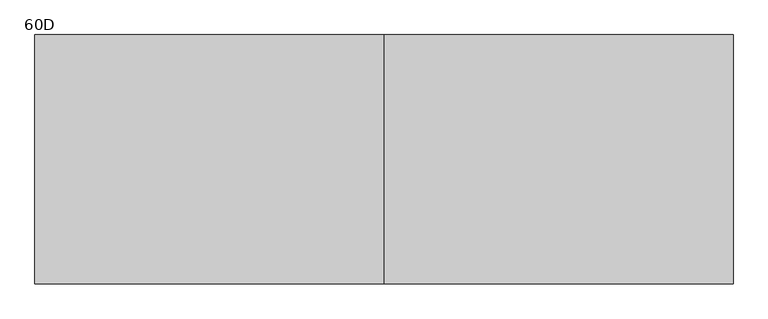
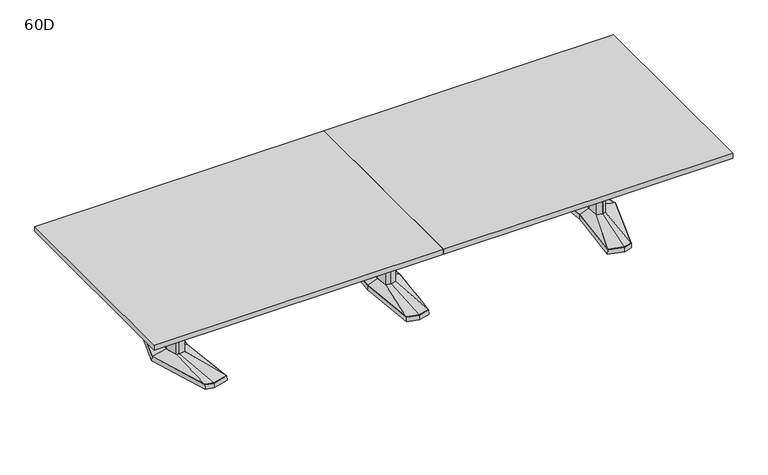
"""IFC4 building model written with IfcOpenShell, lengths in millimetres: furniture geometry, Coalesse_AM_Table_Conference_ETable2_Rectangular_14ft_AluminiumBase : 60D."""

from ifc_helpers import new_model, si_unit, frame, origin, place, context, project, spatial, polyline, outline, extrude, faceted_brep, source, transform, mapped, element, save
from ifc_brep_helpers import plane_surface, spline_surface, advanced_brep


def furniture_60d_765ecf6f(model_context):
    return source(origin(), model_context, "Body", "SolidModel", [
        faceted_brep([(-81.2333791, -433.8053819, 38.1), (0.0, -455.556576, 38.1), (81.2333791, -433.8053819, 38.1), (119.0564774, 0.0, 38.1), (81.2333791, 433.8053819, 38.1), (0.0, 455.556576, 38.1), (-81.2333791, 433.8053819, 38.1), (-119.0564774, 0.0, 38.1), (-82.7182795, -435.0512063, 3.175), (-120.65, 0.0, 3.175), (-82.7182795, 435.0512063, 3.175), (0.0, 457.2, 3.175), (82.7182795, 435.0512063, 3.175), (120.65, 0.0, 3.175), (82.7182795, -435.0512063, 3.175), (0.0, -457.2, 3.175), (0.0, 429.2617927, 3.175), (-77.9676806, 408.3850278, 3.175), (-74.7019821, 382.9646737, 3.175), (0.0, 402.9670094, 3.175), (74.7019821, 382.9646737, 3.175), (77.9676806, 408.3850278, 3.175), (0.0, -429.2617927, 3.175), (77.9676806, -408.3850278, 3.175), (74.7019821, -382.9646737, 3.175), (0.0, -402.9670094, 3.175), (-74.7019821, -382.9646737, 3.175), (-77.9676806, -408.3850278, 3.175), (-71.8574262, 114.6326257, 3.175), (-82.5426076, 0.0, 3.175), (-71.8574262, -114.6326257, 3.175), (0.0, -133.8761372, 3.175), (71.8574262, -114.6326257, 3.175), (82.5426076, 0.0, 3.175), (71.8574262, 114.6326257, 3.175), (0.0, 133.8761372, 3.175), (0.0, 429.2617927, 0.0), (77.9676806, 408.3850278, 0.0), (74.7019821, 382.9646737, 0.0), (0.0, 402.9670094, 0.0), (-74.7019821, 382.9646737, 0.0), (-77.9676806, 408.3850278, 0.0), (0.0, -429.2617927, 0.0), (-77.9676806, -408.3850278, 0.0), (-74.7019821, -382.9646737, 0.0), (0.0, -402.9670094, 0.0), (74.7019821, -382.9646737, 0.0), (77.9676806, -408.3850278, 0.0), (-71.8574262, 114.6326257, 0.0), (0.0, 133.8761372, 0.0), (71.8574262, 114.6326257, 0.0), (82.5426076, 0.0, 0.0), (71.8574262, -114.6326257, 0.0), (0.0, -133.8761372, 0.0), (-71.8574262, -114.6326257, 0.0), (-82.5426076, 0.0, 0.0)], [[[0, 1, 2, 3, 4, 5, 6, 7]], [[8, 9, 10, 11, 12, 13, 14, 15], [16, 17, 18, 19, 20, 21], [22, 23, 24, 25, 26, 27], [28, 29, 30, 31, 32, 33, 34, 35]], [[1, 0, 8, 15]], [[2, 1, 15, 14]], [[3, 2, 14, 13]], [[4, 3, 13, 12]], [[5, 4, 12, 11]], [[6, 5, 11, 10]], [[7, 6, 10, 9]], [[0, 7, 9, 8]], [[36, 37, 38, 39, 40, 41]], [[42, 43, 44, 45, 46, 47]], [[48, 49, 50, 51, 52, 53, 54, 55]], [[36, 41, 17, 16]], [[41, 40, 18, 17]], [[40, 39, 19, 18]], [[39, 38, 20, 19]], [[38, 37, 21, 20]], [[37, 36, 16, 21]], [[42, 47, 23, 22]], [[47, 46, 24, 23]], [[46, 45, 25, 24]], [[45, 44, 26, 25]], [[44, 43, 27, 26]], [[43, 42, 22, 27]], [[48, 55, 29, 28]], [[55, 54, 30, 29]], [[54, 53, 31, 30]], [[53, 52, 32, 31]], [[52, 51, 33, 32]], [[51, 50, 34, 33]], [[50, 49, 35, 34]], [[49, 48, 28, 35]]]),
        faceted_brep([(-36.3832834, 84.6900825, 698.5), (-44.2774487, 0.0, 698.5), (-36.3832834, -84.6900825, 698.5), (0.0, -94.4335728, 698.5), (36.3832834, -84.6900825, 698.5), (44.2774487, 0.0, 698.5), (36.3832834, 84.6900825, 698.5), (0.0, 94.4335728, 698.5), (-36.3832834, 84.6900825, 63.5), (0.0, 94.4335728, 63.5), (36.3832834, 84.6900825, 63.5), (44.2774487, 0.0, 63.5), (36.3832834, -84.6900825, 63.5), (0.0, -94.4335728, 63.5), (-36.3832834, -84.6900825, 63.5), (-44.2774487, 0.0, 63.5)], [[[0, 1, 2, 3, 4, 5, 6, 7]], [[8, 9, 10, 11, 12, 13, 14, 15]], [[1, 0, 8, 15]], [[2, 1, 15, 14]], [[3, 2, 14, 13]], [[4, 3, 13, 12]], [[5, 4, 12, 11]], [[6, 5, 11, 10]], [[7, 6, 10, 9]], [[0, 7, 9, 8]]]),
        advanced_brep(
        [(-36.3832834, 84.6900825, 63.5), (-44.2774487, 0.0, 63.5), (-36.3832834, -84.6900825, 63.5), (0.0, -94.4335728, 63.5), (36.3832834, -84.6900825, 63.5), (44.2774487, 0.0, 63.5), (36.3832834, 84.6900825, 63.5), (0.0, 94.4335728, 63.5), (-81.2333791, 433.8053819, 38.1), (0.0, 455.556576, 38.1), (81.2333791, 433.8053819, 38.1), (119.0564774, 0.0, 38.1), (81.2333791, -433.8053819, 38.1), (0.0, -455.556576, 38.1), (-81.2333791, -433.8053819, 38.1), (-119.0564774, 0.0, 38.1)],
        [
            (0, 1),
            (1, 2),
            (2, 3),
            (3, 4),
            (4, 5),
            (5, 6),
            (6, 7),
            (7, 0),
            (8, 9),
            (9, 10),
            (10, 11),
            (11, 12),
            (12, 13),
            (13, 14),
            (14, 15),
            (15, 8),
            (15, 1),
            (0, 8),
            (14, 2),
            (13, 3),
            (12, 4),
            (11, 5),
            (10, 6),
            (9, 7),
        ],
        [
            plane_surface(frame((0.0, 0.0, 63.5), z_axis=(0.0, 0.0, 1.0000000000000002), x_axis=(-0.9659615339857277, -0.25868574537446, 0.0))),
            plane_surface(frame((0.0, 0.0, 38.1), z_axis=(0.0, 0.0, -1.0000000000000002), x_axis=(-0.9659615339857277, -0.25868574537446, 0.0))),
            spline_surface(1, 1, [[(-81.2333791, 433.8053819, 38.1), (-36.3832834, 84.6900825, 63.5)], [(-119.0564774, 0.0, 38.1), (-44.2774487, 0.0, 63.5)]], [2, 2], [2, 2], [0.0, 1.0], [0.0, 1.0]),
            spline_surface(1, 1, [[(-119.0564774, 0.0, 38.1), (-44.2774487, 0.0, 63.5)], [(-81.2333791, -433.8053819, 38.1), (-36.3832834, -84.6900825, 63.5)]], [2, 2], [2, 2], [0.0, 1.0], [0.0, 1.0]),
            spline_surface(1, 1, [[(-81.2333791, -433.8053819, 38.1), (-36.3832834, -84.6900825, 63.5)], [(0.0, -455.556576, 38.1), (0.0, -94.4335728, 63.5)]], [2, 2], [2, 2], [0.0, 1.0], [0.0, 1.0]),
            spline_surface(1, 1, [[(0.0, -455.556576, 38.1), (0.0, -94.4335728, 63.5)], [(81.2333791, -433.8053819, 38.1), (36.3832834, -84.6900825, 63.5)]], [2, 2], [2, 2], [0.0, 1.0], [0.0, 1.0]),
            spline_surface(1, 1, [[(81.2333791, -433.8053819, 38.1), (36.3832834, -84.6900825, 63.5)], [(119.0564774, 0.0, 38.1), (44.2774487, 0.0, 63.5)]], [2, 2], [2, 2], [0.0, 1.0], [0.0, 1.0]),
            spline_surface(1, 1, [[(119.0564774, 0.0, 38.1), (44.2774487, 0.0, 63.5)], [(81.2333791, 433.8053819, 38.1), (36.3832834, 84.6900825, 63.5)]], [2, 2], [2, 2], [0.0, 1.0], [0.0, 1.0]),
            spline_surface(1, 1, [[(81.2333791, 433.8053819, 38.1), (36.3832834, 84.6900825, 63.5)], [(0.0, 455.556576, 38.1), (0.0, 94.4335728, 63.5)]], [2, 2], [2, 2], [0.0, 1.0], [0.0, 1.0]),
            spline_surface(1, 1, [[(0.0, 455.556576, 38.1), (0.0, 94.4335728, 63.5)], [(-81.2333791, 433.8053819, 38.1), (-36.3832834, 84.6900825, 63.5)]], [2, 2], [2, 2], [0.0, 1.0], [0.0, 1.0]),
        ],
        [
            (0, [[1, 2, 3, 4, 5, 6, 7, 8]]),
            (1, [[9, 10, 11, 12, 13, 14, 15, 16]]),
            (2, [[-16, 17, -1, 18]]),
            (3, [[-15, 19, -2, -17]]),
            (4, [[-14, 20, -3, -19]]),
            (5, [[-13, 21, -4, -20]]),
            (6, [[-12, 22, -5, -21]]),
            (7, [[-11, 23, -6, -22]]),
            (8, [[-10, 24, -7, -23]]),
            (9, [[-9, -18, -8, -24]]),
        ],
    ),
        faceted_brep([(1515.4306835, 455.5848221, 38.1), (1405.8531277, 426.2263816, 38.1), (1447.0163717, 0.0, 38.1), (1405.8531277, -426.2263816, 38.1), (1515.4306835, -455.5848221, 38.1), (1571.5570396, -440.5478297, 38.1), (1708.8684269, 0.0, 38.1), (1571.5570396, 440.5478297, 38.1), (1515.4306754, 457.2283104, 3.175), (1572.8124472, 441.8549756, 3.175), (1710.53125, 0.0, 3.175), (1572.8124472, -441.8549756, 3.175), (1515.4306754, -457.2283104, 3.175), (1404.14375, -427.4118891, 3.175), (1445.4214856, 0.0, 3.175), (1404.14375, 427.4118891, 3.175), (1519.020115, 428.3273875, 3.175), (1413.9718228, 402.1057253, 3.175), (1422.090518, 377.985069, 3.175), (1522.6095466, 401.0699529, 3.175), (1573.1691725, 387.524361, 3.175), (1572.3631061, 414.0360954, 3.175), (1519.020115, -428.3273875, 3.175), (1572.3631061, -414.0360954, 3.175), (1573.1691725, -387.524361, 3.175), (1522.6095466, -401.0699529, 3.175), (1422.090518, -377.985069, 3.175), (1413.9718228, -402.1057253, 3.175), (1645.6153621, 0.0, 3.175), (1613.3459611, 120.4193755, 3.175), (1564.6987222, 133.471665, 3.175), (1484.8180526, 119.4176561, 3.175), (1473.6868466, 0.0, 3.175), (1484.8180526, -119.4176561, 3.175), (1564.6987222, -133.471665, 3.175), (1613.3459611, -120.4193755, 3.175), (1519.020115, 428.3273875, 0.0), (1572.3631061, 414.0360954, 0.0), (1573.1691725, 387.524361, 0.0), (1522.6095466, 401.0699529, 0.0), (1422.090518, 377.985069, 0.0), (1413.9718228, 402.1057253, 0.0), (1519.020115, -428.3273875, 0.0), (1413.9718228, -402.1057253, 0.0), (1422.090518, -377.985069, 0.0), (1522.6095466, -401.0699529, 0.0), (1573.1691725, -387.524361, 0.0), (1572.3631061, -414.0360954, 0.0), (1645.6153621, 0.0, 0.0), (1613.3459611, -120.4193755, 0.0), (1564.6987222, -133.471665, 0.0), (1484.8180526, -119.4176561, 0.0), (1473.6868466, 0.0, 0.0), (1484.8180526, 119.4176561, 0.0), (1564.6987222, 133.471665, 0.0), (1613.3459611, 120.4193755, 0.0)], [[[0, 1, 2, 3, 4, 5, 6, 7]], [[8, 9, 10, 11, 12, 13, 14, 15], [16, 17, 18, 19, 20, 21], [22, 23, 24, 25, 26, 27], [28, 29, 30, 31, 32, 33, 34, 35]], [[7, 9, 8, 0]], [[6, 10, 9, 7]], [[5, 11, 10, 6]], [[4, 12, 11, 5]], [[3, 13, 12, 4]], [[2, 14, 13, 3]], [[1, 15, 14, 2]], [[0, 8, 15, 1]], [[36, 37, 38, 39, 40, 41]], [[42, 43, 44, 45, 46, 47]], [[48, 49, 50, 51, 52, 53, 54, 55]], [[36, 16, 21, 37]], [[37, 21, 20, 38]], [[38, 20, 19, 39]], [[39, 19, 18, 40]], [[40, 18, 17, 41]], [[41, 17, 16, 36]], [[42, 22, 27, 43]], [[43, 27, 26, 44]], [[44, 26, 25, 45]], [[45, 25, 24, 46]], [[46, 24, 23, 47]], [[47, 23, 22, 42]], [[48, 28, 35, 49]], [[49, 35, 34, 50]], [[50, 34, 33, 51]], [[51, 33, 32, 52]], [[52, 32, 31, 53]], [[53, 31, 30, 54]], [[54, 30, 29, 55]], [[55, 29, 28, 48]]]),
        faceted_brep([(1606.1710836, 0.0, 698.5), (1582.2358546, 89.3188359, 698.5), (1565.3824984, 93.8406728, 698.5), (1562.9826511, 94.4845635, 698.5), (1520.055146, 86.9320037, 698.5), (1511.9520056, 0.0, 698.5), (1520.055146, -86.9320037, 698.5), (1562.9826511, -94.4845635, 698.5), (1565.3824984, -93.8406728, 698.5), (1582.2358546, -89.3188359, 698.5), (1606.1710836, 0.0, 63.5), (1582.2358546, -89.3188359, 63.5), (1565.3824984, -93.8406728, 63.5), (1562.9826511, -94.4845635, 63.5), (1520.055146, -86.9320037, 63.5), (1511.9520056, 0.0, 63.5), (1520.055146, 86.9320037, 63.5), (1562.9826511, 94.4845635, 63.5), (1565.3824984, 93.8406728, 63.5), (1582.2358546, 89.3188359, 63.5)], [[[0, 1, 2, 3, 4, 5, 6, 7, 8, 9]], [[10, 11, 12, 13, 14, 15, 16, 17, 18, 19]], [[9, 11, 10, 0]], [[8, 12, 11, 9]], [[7, 13, 12, 8]], [[6, 14, 13, 7]], [[5, 15, 14, 6]], [[4, 16, 15, 5]], [[3, 17, 16, 4]], [[2, 18, 17, 3]], [[1, 19, 18, 2]], [[0, 10, 19, 1]]]),
        advanced_brep(
        [(1562.9826511, 94.4845635, 63.5), (1520.055146, 86.9320037, 63.5), (1511.9520056, 0.0, 63.5), (1520.055146, -86.9320037, 63.5), (1562.9826511, -94.4845635, 63.5), (1582.2358546, -89.3188359, 63.5), (1606.1710836, 0.0, 63.5), (1582.2358546, 89.3188359, 63.5), (1515.4306835, 455.5848221, 38.1), (1571.5570396, 440.5478297, 38.1), (1708.8684269, 0.0, 38.1), (1571.5570396, -440.5478297, 38.1), (1515.4306835, -455.5848221, 38.1), (1405.8531277, -426.2263816, 38.1), (1447.0163717, 0.0, 38.1), (1405.8531277, 426.2263816, 38.1)],
        [
            (0, 1),
            (1, 2),
            (2, 3),
            (3, 4),
            (4, 5),
            (5, 6),
            (6, 7),
            (7, 0),
            (8, 9),
            (9, 10),
            (10, 11),
            (11, 12),
            (12, 13),
            (13, 14),
            (14, 15),
            (15, 8),
            (8, 0),
            (7, 9),
            (6, 10),
            (5, 11),
            (4, 12),
            (3, 13),
            (2, 14),
            (1, 15),
        ],
        [
            plane_surface(frame((1556.0837991, 0.0, 63.5), z_axis=(0.0, 0.0, 1.0), x_axis=(-0.25884244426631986, -0.9659195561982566, 0.0))),
            plane_surface(frame((1517.6958125, 0.0, 38.1), z_axis=(0.0, 0.0, -1.0), x_axis=(-0.25884244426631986, -0.9659195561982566, 0.0))),
            spline_surface(1, 1, [[(1515.4306835, 455.5848221, 38.1), (1571.5570396, 440.5478297, 38.1)], [(1562.9826511, 94.4845635, 63.5), (1582.2358546, 89.3188359, 63.5)]], [2, 2], [2, 2], [0.0, 1.0], [0.0, 1.0]),
            spline_surface(1, 1, [[(1571.5570396, 440.5478297, 38.1), (1708.8684269, 0.0, 38.1)], [(1582.2358546, 89.3188359, 63.5), (1606.1710836, 0.0, 63.5)]], [2, 2], [2, 2], [0.0, 1.0], [0.0, 1.0]),
            spline_surface(1, 1, [[(1708.8684269, 0.0, 38.1), (1571.5570396, -440.5478297, 38.1)], [(1606.1710836, 0.0, 63.5), (1582.2358546, -89.3188359, 63.5)]], [2, 2], [2, 2], [0.0, 1.0], [0.0, 1.0]),
            spline_surface(1, 1, [[(1571.5570396, -440.5478297, 38.1), (1515.4306835, -455.5848221, 38.1)], [(1582.2358546, -89.3188359, 63.5), (1562.9826511, -94.4845635, 63.5)]], [2, 2], [2, 2], [0.0, 1.0], [0.0, 1.0]),
            spline_surface(1, 1, [[(1515.4306835, -455.5848221, 38.1), (1405.8531277, -426.2263816, 38.1)], [(1562.9826511, -94.4845635, 63.5), (1520.055146, -86.9320037, 63.5)]], [2, 2], [2, 2], [0.0, 1.0], [0.0, 1.0]),
            spline_surface(1, 1, [[(1405.8531277, -426.2263816, 38.1), (1447.0163717, 0.0, 38.1)], [(1520.055146, -86.9320037, 63.5), (1511.9520056, 0.0, 63.5)]], [2, 2], [2, 2], [0.0, 1.0], [0.0, 1.0]),
            spline_surface(1, 1, [[(1447.0163717, 0.0, 38.1), (1405.8531277, 426.2263816, 38.1)], [(1511.9520056, 0.0, 63.5), (1520.055146, 86.9320037, 63.5)]], [2, 2], [2, 2], [0.0, 1.0], [0.0, 1.0]),
            spline_surface(1, 1, [[(1405.8531277, 426.2263816, 38.1), (1515.4306835, 455.5848221, 38.1)], [(1520.055146, 86.9320037, 63.5), (1562.9826511, 94.4845635, 63.5)]], [2, 2], [2, 2], [0.0, 1.0], [0.0, 1.0]),
        ],
        [
            (0, [[1, 2, 3, 4, 5, 6, 7, 8]]),
            (1, [[9, 10, 11, 12, 13, 14, 15, 16]]),
            (2, [[17, -8, 18, -9]]),
            (3, [[-18, -7, 19, -10]]),
            (4, [[-19, -6, 20, -11]]),
            (5, [[-20, -5, 21, -12]]),
            (6, [[-21, -4, 22, -13]]),
            (7, [[-22, -3, 23, -14]]),
            (8, [[-23, -2, 24, -15]]),
            (9, [[-24, -1, -17, -16]]),
        ],
    ),
        faceted_brep([(-1515.4306835, 455.5848221, 38.1), (-1571.5570396, 440.5478297, 38.1), (-1708.8684269, 0.0, 38.1), (-1571.5570396, -440.5478297, 38.1), (-1515.4306835, -455.5848221, 38.1), (-1405.8531277, -426.2263816, 38.1), (-1447.0163717, 0.0, 38.1), (-1405.8531277, 426.2263816, 38.1), (-1515.4306754, 457.2283104, 3.175), (-1404.14375, 427.4118891, 3.175), (-1445.4214856, 0.0, 3.175), (-1404.14375, -427.4118891, 3.175), (-1515.4306754, -457.2283104, 3.175), (-1572.8124472, -441.8549756, 3.175), (-1710.53125, 0.0, 3.175), (-1572.8124472, 441.8549756, 3.175), (-1519.020115, 428.3273875, 3.175), (-1572.3631061, 414.0360954, 3.175), (-1573.1691725, 387.524361, 3.175), (-1522.6095466, 401.0699529, 3.175), (-1422.090518, 377.985069, 3.175), (-1413.9718228, 402.1057253, 3.175), (-1519.020115, -428.3273875, 3.175), (-1413.9718228, -402.1057253, 3.175), (-1422.090518, -377.985069, 3.175), (-1522.6095466, -401.0699529, 3.175), (-1573.1691725, -387.524361, 3.175), (-1572.3631061, -414.0360954, 3.175), (-1645.6153621, 0.0, 3.175), (-1613.3459611, -120.4193755, 3.175), (-1564.6987222, -133.471665, 3.175), (-1484.8180526, -119.4176561, 3.175), (-1473.6868466, 0.0, 3.175), (-1484.8180526, 119.4176561, 3.175), (-1564.6987222, 133.471665, 3.175), (-1613.3459611, 120.4193755, 3.175), (-1519.020115, 428.3273875, 0.0), (-1413.9718228, 402.1057253, 0.0), (-1422.090518, 377.985069, 0.0), (-1522.6095466, 401.0699529, 0.0), (-1573.1691725, 387.524361, 0.0), (-1572.3631061, 414.0360954, 0.0), (-1519.020115, -428.3273875, 0.0), (-1572.3631061, -414.0360954, 0.0), (-1573.1691725, -387.524361, 0.0), (-1522.6095466, -401.0699529, 0.0), (-1422.090518, -377.985069, 0.0), (-1413.9718228, -402.1057253, 0.0), (-1645.6153621, 0.0, 0.0), (-1613.3459611, 120.4193755, 0.0), (-1564.6987222, 133.471665, 0.0), (-1484.8180526, 119.4176561, 0.0), (-1473.6868466, 0.0, 0.0), (-1484.8180526, -119.4176561, 0.0), (-1564.6987222, -133.471665, 0.0), (-1613.3459611, -120.4193755, 0.0)], [[[0, 1, 2, 3, 4, 5, 6, 7]], [[8, 9, 10, 11, 12, 13, 14, 15], [16, 17, 18, 19, 20, 21], [22, 23, 24, 25, 26, 27], [28, 29, 30, 31, 32, 33, 34, 35]], [[1, 0, 8, 15]], [[2, 1, 15, 14]], [[3, 2, 14, 13]], [[4, 3, 13, 12]], [[5, 4, 12, 11]], [[6, 5, 11, 10]], [[7, 6, 10, 9]], [[0, 7, 9, 8]], [[36, 37, 38, 39, 40, 41]], [[42, 43, 44, 45, 46, 47]], [[48, 49, 50, 51, 52, 53, 54, 55]], [[36, 41, 17, 16]], [[41, 40, 18, 17]], [[40, 39, 19, 18]], [[39, 38, 20, 19]], [[38, 37, 21, 20]], [[37, 36, 16, 21]], [[42, 47, 23, 22]], [[47, 46, 24, 23]], [[46, 45, 25, 24]], [[45, 44, 26, 25]], [[44, 43, 27, 26]], [[43, 42, 22, 27]], [[48, 55, 29, 28]], [[55, 54, 30, 29]], [[54, 53, 31, 30]], [[53, 52, 32, 31]], [[52, 51, 33, 32]], [[51, 50, 34, 33]], [[50, 49, 35, 34]], [[49, 48, 28, 35]]]),
        faceted_brep([(-1606.1710836, 0.0, 698.5), (-1582.2358546, -89.3188359, 698.5), (-1565.3824984, -93.8406728, 698.5), (-1562.9826511, -94.4845635, 698.5), (-1520.055146, -86.9320037, 698.5), (-1511.9520056, 0.0, 698.5), (-1520.055146, 86.9320037, 698.5), (-1562.9826511, 94.4845635, 698.5), (-1565.3824984, 93.8406728, 698.5), (-1582.2358546, 89.3188359, 698.5), (-1606.1710836, 0.0, 63.5), (-1582.2358546, 89.3188359, 63.5), (-1565.3824984, 93.8406728, 63.5), (-1562.9826511, 94.4845635, 63.5), (-1520.055146, 86.9320037, 63.5), (-1511.9520056, 0.0, 63.5), (-1520.055146, -86.9320037, 63.5), (-1562.9826511, -94.4845635, 63.5), (-1565.3824984, -93.8406728, 63.5), (-1582.2358546, -89.3188359, 63.5)], [[[0, 1, 2, 3, 4, 5, 6, 7, 8, 9]], [[10, 11, 12, 13, 14, 15, 16, 17, 18, 19]], [[1, 0, 10, 19]], [[2, 1, 19, 18]], [[3, 2, 18, 17]], [[4, 3, 17, 16]], [[5, 4, 16, 15]], [[6, 5, 15, 14]], [[7, 6, 14, 13]], [[8, 7, 13, 12]], [[9, 8, 12, 11]], [[0, 9, 11, 10]]]),
        advanced_brep(
        [(-1562.9826511, 94.4845635, 63.5), (-1582.2358546, 89.3188359, 63.5), (-1606.1710836, 0.0, 63.5), (-1582.2358546, -89.3188359, 63.5), (-1562.9826511, -94.4845635, 63.5), (-1520.055146, -86.9320037, 63.5), (-1511.9520056, 0.0, 63.5), (-1520.055146, 86.9320037, 63.5), (-1515.4306835, 455.5848221, 38.1), (-1405.8531277, 426.2263816, 38.1), (-1447.0163717, 0.0, 38.1), (-1405.8531277, -426.2263816, 38.1), (-1515.4306835, -455.5848221, 38.1), (-1571.5570396, -440.5478297, 38.1), (-1708.8684269, 0.0, 38.1), (-1571.5570396, 440.5478297, 38.1)],
        [
            (0, 1),
            (1, 2),
            (2, 3),
            (3, 4),
            (4, 5),
            (5, 6),
            (6, 7),
            (7, 0),
            (8, 9),
            (9, 10),
            (10, 11),
            (11, 12),
            (12, 13),
            (13, 14),
            (14, 15),
            (15, 8),
            (15, 1),
            (0, 8),
            (14, 2),
            (13, 3),
            (12, 4),
            (11, 5),
            (10, 6),
            (9, 7),
        ],
        [
            plane_surface(frame((-1556.0837991, 0.0, 63.5), z_axis=(0.0, 0.0, 1.0), x_axis=(0.25884244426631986, -0.9659195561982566, 0.0))),
            plane_surface(frame((-1517.6958125, 0.0, 38.1), z_axis=(0.0, 0.0, -1.0), x_axis=(0.25884244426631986, -0.9659195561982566, 0.0))),
            spline_surface(1, 1, [[(-1515.4306835, 455.5848221, 38.1), (-1562.9826511, 94.4845635, 63.5)], [(-1571.5570396, 440.5478297, 38.1), (-1582.2358546, 89.3188359, 63.5)]], [2, 2], [2, 2], [0.0, 1.0], [0.0, 1.0]),
            spline_surface(1, 1, [[(-1571.5570396, 440.5478297, 38.1), (-1582.2358546, 89.3188359, 63.5)], [(-1708.8684269, 0.0, 38.1), (-1606.1710836, 0.0, 63.5)]], [2, 2], [2, 2], [0.0, 1.0], [0.0, 1.0]),
            spline_surface(1, 1, [[(-1708.8684269, 0.0, 38.1), (-1606.1710836, 0.0, 63.5)], [(-1571.5570396, -440.5478297, 38.1), (-1582.2358546, -89.3188359, 63.5)]], [2, 2], [2, 2], [0.0, 1.0], [0.0, 1.0]),
            spline_surface(1, 1, [[(-1571.5570396, -440.5478297, 38.1), (-1582.2358546, -89.3188359, 63.5)], [(-1515.4306835, -455.5848221, 38.1), (-1562.9826511, -94.4845635, 63.5)]], [2, 2], [2, 2], [0.0, 1.0], [0.0, 1.0]),
            spline_surface(1, 1, [[(-1515.4306835, -455.5848221, 38.1), (-1562.9826511, -94.4845635, 63.5)], [(-1405.8531277, -426.2263816, 38.1), (-1520.055146, -86.9320037, 63.5)]], [2, 2], [2, 2], [0.0, 1.0], [0.0, 1.0]),
            spline_surface(1, 1, [[(-1405.8531277, -426.2263816, 38.1), (-1520.055146, -86.9320037, 63.5)], [(-1447.0163717, 0.0, 38.1), (-1511.9520056, 0.0, 63.5)]], [2, 2], [2, 2], [0.0, 1.0], [0.0, 1.0]),
            spline_surface(1, 1, [[(-1447.0163717, 0.0, 38.1), (-1511.9520056, 0.0, 63.5)], [(-1405.8531277, 426.2263816, 38.1), (-1520.055146, 86.9320037, 63.5)]], [2, 2], [2, 2], [0.0, 1.0], [0.0, 1.0]),
            spline_surface(1, 1, [[(-1405.8531277, 426.2263816, 38.1), (-1520.055146, 86.9320037, 63.5)], [(-1515.4306835, 455.5848221, 38.1), (-1562.9826511, 94.4845635, 63.5)]], [2, 2], [2, 2], [0.0, 1.0], [0.0, 1.0]),
        ],
        [
            (0, [[1, 2, 3, 4, 5, 6, 7, 8]]),
            (1, [[9, 10, 11, 12, 13, 14, 15, 16]]),
            (2, [[-16, 17, -1, 18]]),
            (3, [[-15, 19, -2, -17]]),
            (4, [[-14, 20, -3, -19]]),
            (5, [[-13, 21, -4, -20]]),
            (6, [[-12, 22, -5, -21]]),
            (7, [[-11, 23, -6, -22]]),
            (8, [[-10, 24, -7, -23]]),
            (9, [[-9, -18, -8, -24]]),
        ],
    ),
        extrude(outline(polyline([(96.8375, 698.5), (103.1875, 698.5), (103.1875, 476.25), (-103.1875, 476.25), (-103.1875, 698.5), (-96.8375, 698.5), (-96.8375, 482.6), (96.8375, 482.6), (96.8375, 698.5)])), frame((44.2774487, 0.0, 0.0), z_axis=(1.0, 0.0, 0.0), x_axis=(0.0, 1.0, 0.0)), (0.0, 0.0, 1.0), 1467.8163013),
        extrude(outline(polyline([(2133.6, 762.0), (2133.6, -762.0), (0.0, -762.0), (0.0, 762.0), (2133.6, 762.0)])), frame((0.0, 0.0, 698.5), z_axis=(0.0, 0.0, 1.0), x_axis=(1.0, 0.0, 0.0)), (0.0, 0.0, 1.0), 38.1),
        extrude(outline(polyline([(0.0, 762.0), (0.0, -762.0), (-2133.6, -762.0), (-2133.6, 762.0), (0.0, 762.0)])), frame((0.0, 0.0, 698.5), z_axis=(0.0, 0.0, 1.0), x_axis=(1.0, 0.0, 0.0)), (0.0, 0.0, 1.0), 38.1),
        extrude(outline(polyline([(96.8375, 698.5), (103.1875, 698.5), (103.1875, 476.25), (-103.1875, 476.25), (-103.1875, 698.5), (-96.8375, 698.5), (-96.8375, 482.6), (96.8375, 482.6), (96.8375, 698.5)])), frame((-1512.09375, 0.0, 0.0), z_axis=(1.0, 0.0, 0.0), x_axis=(0.0, 1.0, 0.0)), (0.0, 0.0, 1.0), 1467.8163013),
    ])


if __name__ == "__main__":
    model = new_model("IFC4")
    model_context = context("Model", 3, world=origin())
    ifc_project = project(units=[si_unit("LENGTHUNIT", "METRE", prefix="MILLI")], contexts=[model_context])
    site = spatial("IfcSite", under=ifc_project)
    building = spatial("IfcBuilding", under=site)
    placement = place(None, origin())
    furniture_60d_shape = furniture_60d_765ecf6f(model_context)
    element("IfcFurniture", 1, ObjectType="Coalesse_AM_Table_Conference_ETable2_Rectangular_14ft_AluminiumBase : 60D", at=placement, inside=building, context=model_context, shape_type="MappedRepresentation", body=[
        mapped(furniture_60d_shape, transform((0.0, 0.0, 0.0), x_axis=(1.0, 0.0, 0.0), y_axis=(0.0, 1.0, 0.0), z_axis=(0.0, 0.0, 1.0))),
    ])
    save(model, "model.ifc")
